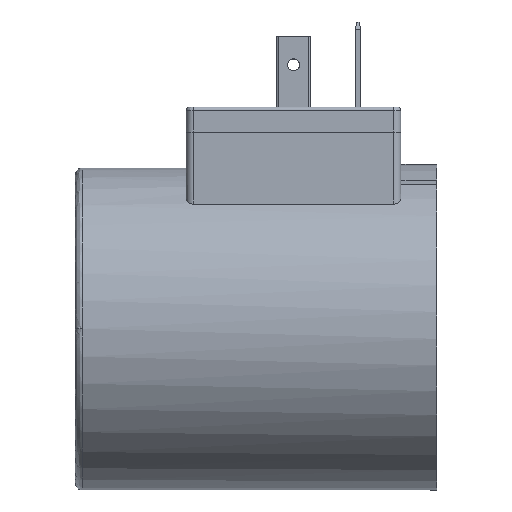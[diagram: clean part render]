
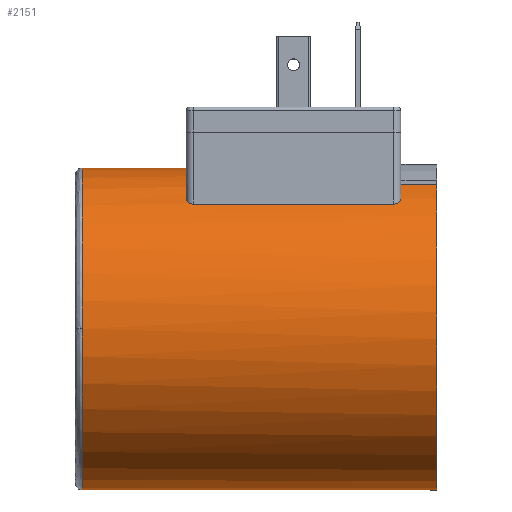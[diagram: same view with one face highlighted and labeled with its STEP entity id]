
A CAD part, top view. The second image highlights one B-rep face of the part: STEP entity #2151.
In plain terms, the highlighted cylindrical face has radius 22.5 mm (diameter 45 mm), a partial arc.
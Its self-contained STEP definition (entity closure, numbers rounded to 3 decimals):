
#295 = VERTEX_POINT ( 'NONE', #7944 ) ;
#572 = DIRECTION ( 'NONE',  ( 0., 1., 0. ) ) ;
#580 = DIRECTION ( 'NONE',  ( 1., 0., 0. ) ) ;
#596 = CARTESIAN_POINT ( 'NONE',  ( -24.17, 0., 0. ) ) ;
#639 = DIRECTION ( 'NONE',  ( -1., 0., 0. ) ) ;
#644 = DIRECTION ( 'NONE',  ( 0., 1., 0. ) ) ;
#664 = CARTESIAN_POINT ( 'NONE',  ( -0.4, 0., 0. ) ) ;
#700 = CARTESIAN_POINT ( 'NONE',  ( -25.15, 20.156, 10. ) ) ;
#731 = CARTESIAN_POINT ( 'NONE',  ( -0.4, -22.5, 0. ) ) ;
#771 = DIRECTION ( 'NONE',  ( 1., 0., 0. ) ) ;
#1051 = CIRCLE ( 'NONE', #7972, 22.5 ) ;
#1068 = CARTESIAN_POINT ( 'NONE',  ( -49.9, 0., 22.5 ) ) ;
#1092 = LINE ( 'NONE', #1645, #1135 ) ;
#1126 = FACE_OUTER_BOUND ( 'NONE', #6419, .T. ) ;
#1135 = VECTOR ( 'NONE', #1808, 1000. ) ;
#1157 = LINE ( 'NONE', #1579, #1204 ) ;
#1204 = VECTOR ( 'NONE', #1527, 1000. ) ;
#1224 = CIRCLE ( 'NONE', #7816, 22.5 ) ;
#1265 = VERTEX_POINT ( 'NONE', #8835 ) ;
#1361 = CYLINDRICAL_SURFACE ( 'NONE', #3183, 22.5 ) ;
#1422 = DIRECTION ( 'NONE',  ( -1., 0., 0. ) ) ;
#1434 = DIRECTION ( 'NONE',  ( 0., 0., -1. ) ) ;
#1446 = CARTESIAN_POINT ( 'NONE',  ( -49.9, 0., 0. ) ) ;
#1464 = DIRECTION ( 'NONE',  ( 0., 0., -1. ) ) ;
#1482 = DIRECTION ( 'NONE',  ( -1., 0., 0. ) ) ;
#1494 = CARTESIAN_POINT ( 'NONE',  ( -49.9, 0., 0. ) ) ;
#1527 = DIRECTION ( 'NONE',  ( 1., 0., 0. ) ) ;
#1578 = CIRCLE ( 'NONE', #7812, 22.5 ) ;
#1579 = CARTESIAN_POINT ( 'NONE',  ( -49.9, -22.5, 0. ) ) ;
#1591 = CARTESIAN_POINT ( 'NONE',  ( -49.9, 0., 0. ) ) ;
#1603 = CIRCLE ( 'NONE', #7949, 22.5 ) ;
#1631 = LINE ( 'NONE', #700, #1660 ) ;
#1645 = CARTESIAN_POINT ( 'NONE',  ( -49.9, 22.5, 0. ) ) ;
#1648 = DIRECTION ( 'NONE',  ( 1., 0., 0. ) ) ;
#1660 = VECTOR ( 'NONE', #771, 1000. ) ;
#1668 = DIRECTION ( 'NONE',  ( 0., 1., 0. ) ) ;
#1808 = DIRECTION ( 'NONE',  ( 1., 0., 0. ) ) ;
#2023 = ORIENTED_EDGE ( 'NONE', *, *, #7037, .F. ) ;
#2151 = ADVANCED_FACE ( 'NONE', ( #1126 ), #1361, .T. ) ;
#2187 = ORIENTED_EDGE ( 'NONE', *, *, #7051, .F. ) ;
#2550 = ORIENTED_EDGE ( 'NONE', *, *, #6896, .F. ) ;
#3183 = AXIS2_PLACEMENT_3D ( 'NONE', #1591, #1648, #1668 ) ;
#3966 = CARTESIAN_POINT ( 'NONE',  ( -24.17, 22.5, 0. ) ) ;
#4301 = ORIENTED_EDGE ( 'NONE', *, *, #7034, .T. ) ;
#4735 = VERTEX_POINT ( 'NONE', #731 ) ;
#5160 = CARTESIAN_POINT ( 'NONE',  ( -49.9, -22.5, 0. ) ) ;
#6419 = EDGE_LOOP ( 'NONE', ( #8422, #6465, #4301, #2023, #2187, #2550, #8660 ) ) ;
#6465 = ORIENTED_EDGE ( 'NONE', *, *, #6911, .T. ) ;
#6531 = CARTESIAN_POINT ( 'NONE',  ( -49.9, 22.5, 0. ) ) ;
#6559 = VERTEX_POINT ( 'NONE', #5160 ) ;
#6717 = VERTEX_POINT ( 'NONE', #6531 ) ;
#6896 = EDGE_CURVE ( 'NONE', #6717, #9893, #1092, .T. ) ;
#6911 = EDGE_CURVE ( 'NONE', #6559, #4735, #1157, .T. ) ;
#6912 = EDGE_CURVE ( 'NONE', #8044, #6717, #1051, .T. ) ;
#6926 = EDGE_CURVE ( 'NONE', #6559, #8044, #1224, .T. ) ;
#7034 = EDGE_CURVE ( 'NONE', #4735, #1265, #1603, .T. ) ;
#7037 = EDGE_CURVE ( 'NONE', #295, #1265, #1631, .T. ) ;
#7051 = EDGE_CURVE ( 'NONE', #9893, #295, #1578, .T. ) ;
#7812 = AXIS2_PLACEMENT_3D ( 'NONE', #596, #580, #572 ) ;
#7816 = AXIS2_PLACEMENT_3D ( 'NONE', #1446, #1422, #1434 ) ;
#7944 = CARTESIAN_POINT ( 'NONE',  ( -24.17, 20.156, 10. ) ) ;
#7949 = AXIS2_PLACEMENT_3D ( 'NONE', #664, #639, #644 ) ;
#7972 = AXIS2_PLACEMENT_3D ( 'NONE', #1494, #1482, #1464 ) ;
#8044 = VERTEX_POINT ( 'NONE', #1068 ) ;
#8422 = ORIENTED_EDGE ( 'NONE', *, *, #6926, .F. ) ;
#8660 = ORIENTED_EDGE ( 'NONE', *, *, #6912, .F. ) ;
#8835 = CARTESIAN_POINT ( 'NONE',  ( -0.4, 20.156, 10. ) ) ;
#9893 = VERTEX_POINT ( 'NONE', #3966 ) ;
